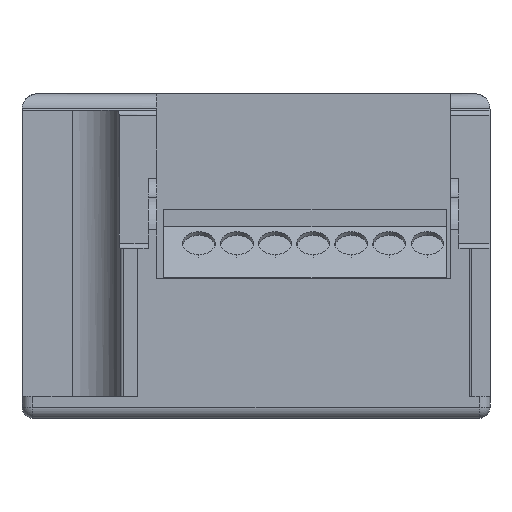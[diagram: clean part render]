
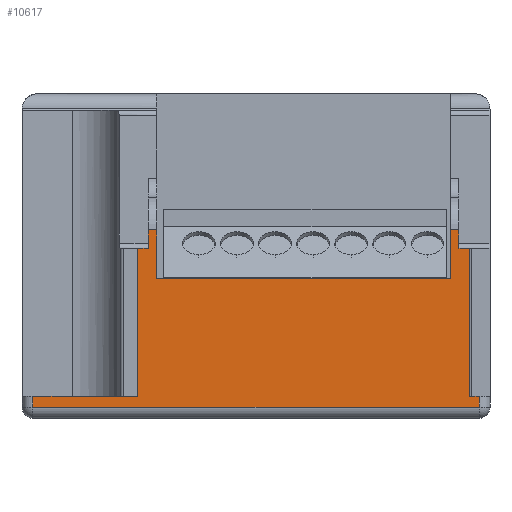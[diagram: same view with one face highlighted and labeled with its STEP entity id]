
A CAD part, front view. The second image highlights one B-rep face of the part: STEP entity #10617.
In plain terms, the highlighted planar face has unit normal (0, -1, 0).
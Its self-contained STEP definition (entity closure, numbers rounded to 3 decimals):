
#4215=DIRECTION('',(-0.001,0.,1.));
#4216=VECTOR('',#4215,4.5);
#4217=CARTESIAN_POINT('',(17.9,-75.,12.8));
#4218=LINE('',#4217,#4216);
#4222=DIRECTION('',(1.,0.,0.));
#4223=VECTOR('',#4222,0.748);
#4224=CARTESIAN_POINT('',(17.897,-75.,17.3));
#4225=LINE('',#4224,#4223);
#4229=DIRECTION('',(1.,0.,0.));
#4230=VECTOR('',#4229,1.);
#4231=CARTESIAN_POINT('',(18.645,-75.,15.6));
#4232=LINE('',#4231,#4230);
#4236=DIRECTION('',(0.,0.,-1.));
#4237=VECTOR('',#4236,13.6);
#4238=CARTESIAN_POINT('',(19.645,-75.,15.6));
#4239=LINE('',#4238,#4237);
#4243=DIRECTION('',(1.,0.,0.));
#4244=VECTOR('',#4243,0.855);
#4245=CARTESIAN_POINT('',(19.645,-75.,2.));
#4246=LINE('',#4245,#4244);
#4250=DIRECTION('',(0.,0.,-1.));
#4251=VECTOR('',#4250,1.);
#4252=CARTESIAN_POINT('',(20.5,-75.,2.));
#4253=LINE('',#4252,#4251);
#4257=DIRECTION('',(-1.,0.,0.));
#4258=VECTOR('',#4257,41.);
#4259=CARTESIAN_POINT('',(20.5,-75.,1.));
#4260=LINE('',#4259,#4258);
#4264=DIRECTION('',(0.,0.,-1.));
#4265=VECTOR('',#4264,1.);
#4266=CARTESIAN_POINT('',(-20.5,-75.,2.));
#4267=LINE('',#4266,#4265);
#4271=DIRECTION('',(1.,0.,0.));
#4272=VECTOR('',#4271,9.617);
#4273=CARTESIAN_POINT('',(-20.5,-75.,2.));
#4274=LINE('',#4273,#4272);
#4278=DIRECTION('',(0.,0.,-1.));
#4279=VECTOR('',#4278,13.6);
#4280=CARTESIAN_POINT('',(-10.883,-75.,15.6));
#4281=LINE('',#4280,#4279);
#4285=DIRECTION('',(1.,0.,0.));
#4286=VECTOR('',#4285,1.);
#4287=CARTESIAN_POINT('',(-10.883,-75.,15.6));
#4288=LINE('',#4287,#4286);
#4292=DIRECTION('',(0.,0.,-1.));
#4293=VECTOR('',#4292,4.5);
#4294=CARTESIAN_POINT('',(-9.133,-75.,17.3));
#4295=LINE('',#4294,#4293);
#4299=DIRECTION('',(1.,0.,0.));
#4300=VECTOR('',#4299,27.033);
#4301=CARTESIAN_POINT('',(-9.133,-75.,12.8));
#4302=LINE('',#4301,#4300);
#4313=DIRECTION('',(0.,0.,-1.));
#4314=VECTOR('',#4313,1.7);
#4315=CARTESIAN_POINT('',(18.645,-75.,17.3));
#4316=LINE('',#4315,#4314);
#4430=DIRECTION('',(0.,0.,1.));
#4431=VECTOR('',#4430,1.7);
#4432=CARTESIAN_POINT('',(-9.883,-75.,15.6));
#4433=LINE('',#4432,#4431);
#4744=DIRECTION('',(1.,0.,0.));
#4745=VECTOR('',#4744,0.75);
#4746=CARTESIAN_POINT('',(-9.883,-75.,17.3));
#4747=LINE('',#4746,#4745);
#6552=CARTESIAN_POINT('',(-20.5,-75.,2.));
#6553=CARTESIAN_POINT('',(-10.883,-75.,2.));
#6554=VERTEX_POINT('',#6552);
#6555=VERTEX_POINT('',#6553);
#6564=CARTESIAN_POINT('',(-9.133,-75.,12.8));
#6565=CARTESIAN_POINT('',(17.9,-75.,12.8));
#6566=VERTEX_POINT('',#6564);
#6567=VERTEX_POINT('',#6565);
#6568=CARTESIAN_POINT('',(20.5,-75.,1.));
#6569=CARTESIAN_POINT('',(-20.5,-75.,1.));
#6570=VERTEX_POINT('',#6568);
#6571=VERTEX_POINT('',#6569);
#6708=CARTESIAN_POINT('',(19.645,-75.,2.));
#6709=CARTESIAN_POINT('',(20.5,-75.,2.));
#6710=VERTEX_POINT('',#6708);
#6711=VERTEX_POINT('',#6709);
#6754=CARTESIAN_POINT('',(-9.883,-75.,17.3));
#6756=VERTEX_POINT('',#6754);
#6760=CARTESIAN_POINT('',(-9.133,-75.,17.3));
#6762=VERTEX_POINT('',#6760);
#6775=CARTESIAN_POINT('',(-9.883,-75.,15.6));
#6777=VERTEX_POINT('',#6775);
#6811=CARTESIAN_POINT('',(18.645,-75.,15.6));
#6813=VERTEX_POINT('',#6811);
#6903=CARTESIAN_POINT('',(-10.883,-75.,15.6));
#6904=VERTEX_POINT('',#6903);
#6909=CARTESIAN_POINT('',(18.645,-75.,17.3));
#6910=VERTEX_POINT('',#6909);
#6915=CARTESIAN_POINT('',(17.895,-75.,17.3));
#6916=VERTEX_POINT('',#6915);
#6917=CARTESIAN_POINT('',(19.645,-75.,15.6));
#6918=VERTEX_POINT('',#6917);
#10583=CARTESIAN_POINT('',(-21.5,-75.,0.));
#10584=DIRECTION('',(0.,-1.,0.));
#10585=DIRECTION('',(1.,0.,0.));
#10586=AXIS2_PLACEMENT_3D('',#10583,#10584,#10585);
#10587=PLANE('',#10586);
#10588=ORIENTED_EDGE('',*,*,#9907,.T.);
#10590=ORIENTED_EDGE('',*,*,#10589,.T.);
#10592=ORIENTED_EDGE('',*,*,#10591,.T.);
#10594=ORIENTED_EDGE('',*,*,#10593,.T.);
#10596=ORIENTED_EDGE('',*,*,#10595,.T.);
#10597=ORIENTED_EDGE('',*,*,#7971,.T.);
#10599=ORIENTED_EDGE('',*,*,#10598,.T.);
#10601=ORIENTED_EDGE('',*,*,#10600,.T.);
#10603=ORIENTED_EDGE('',*,*,#10602,.F.);
#10604=ORIENTED_EDGE('',*,*,#8061,.T.);
#10606=ORIENTED_EDGE('',*,*,#10605,.F.);
#10608=ORIENTED_EDGE('',*,*,#10607,.T.);
#10610=ORIENTED_EDGE('',*,*,#10609,.T.);
#10612=ORIENTED_EDGE('',*,*,#10611,.T.);
#10613=ORIENTED_EDGE('',*,*,#9830,.T.);
#10614=ORIENTED_EDGE('',*,*,#9920,.T.);
#10615=EDGE_LOOP('',(#10588,#10590,#10592,#10594,#10596,#10597,#10599,#10601,
#10603,#10604,#10606,#10608,#10610,#10612,#10613,#10614));
#10616=FACE_OUTER_BOUND('',#10615,.F.);
#7971=EDGE_CURVE('',#6710,#6711,#4246,.T.);
#8061=EDGE_CURVE('',#6554,#6555,#4274,.T.);
#9830=EDGE_CURVE('',#6762,#6566,#4295,.T.);
#9907=EDGE_CURVE('',#6567,#6916,#4218,.T.);
#9920=EDGE_CURVE('',#6566,#6567,#4302,.T.);
#10589=EDGE_CURVE('',#6916,#6910,#4225,.T.);
#10591=EDGE_CURVE('',#6910,#6813,#4316,.T.);
#10593=EDGE_CURVE('',#6813,#6918,#4232,.T.);
#10595=EDGE_CURVE('',#6918,#6710,#4239,.T.);
#10598=EDGE_CURVE('',#6711,#6570,#4253,.T.);
#10600=EDGE_CURVE('',#6570,#6571,#4260,.T.);
#10602=EDGE_CURVE('',#6554,#6571,#4267,.T.);
#10605=EDGE_CURVE('',#6904,#6555,#4281,.T.);
#10607=EDGE_CURVE('',#6904,#6777,#4288,.T.);
#10609=EDGE_CURVE('',#6777,#6756,#4433,.T.);
#10611=EDGE_CURVE('',#6756,#6762,#4747,.T.);
#10617=ADVANCED_FACE('',(#10616),#10587,.T.);
